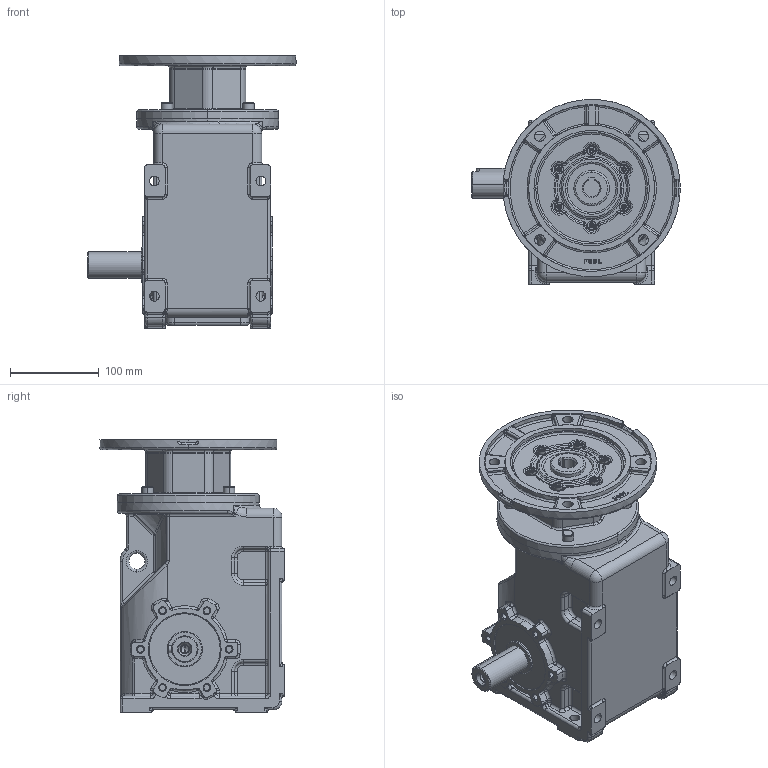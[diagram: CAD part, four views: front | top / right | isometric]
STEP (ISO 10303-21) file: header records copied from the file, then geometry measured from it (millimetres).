
FILE_DESCRIPTION (( 'STEP AP214' ), '1' );
FILE_NAME ('ktm33151-vohllwelle l-f165-ap80.STEP', '2009-07-22T07:47:11', ( '' ), ( '' ), 'SwSTEP 2.0', 'SolidWorks 2003240', '' );
FILE_SCHEMA (( 'AUTOMOTIVE_DESIGN' ));
Length unit declared in the file: millimetre
Products named in the file (4): pøíruba 165 d72 MRT80a_Výchozí; skøíò KTM33_Skøíò KTM33-Vollwelle L-AP80; ktm33151-vohllwelle l-f165-ap80; D6912_Šroub DIN 6912 - M6x20
Assembly tree (8 placements, depth 2):
  ktm33151-vohllwelle l-f165-ap80
    skøíò KTM33_Skøíò KTM33-Vollwelle L-AP80
    D6912_Šroub DIN 6912 - M6x20  x6
    pøíruba 165 d72 MRT80a_Výchozí
Bounding box: 234.81 x 207.68 x 307 mm (x, y, z)
Volume: 5592155.9 mm3; surface area: 345062 mm2
Topology: 8 solids, 8 shells, 1459 faces, 3355 edges, 1875 vertices
Faces by surface type: cylinder 506, torus 303, plane 297, bspline 148, cone 121, sphere 84
Entity records: 105203 total; most frequent: CARTESIAN_POINT 75576, DIRECTION 6472, ORIENTED_EDGE 5834, EDGE_CURVE 2917, AXIS2_PLACEMENT_3D 2754, VERTEX_POINT 1698, CIRCLE 1617, EDGE_LOOP 1363
